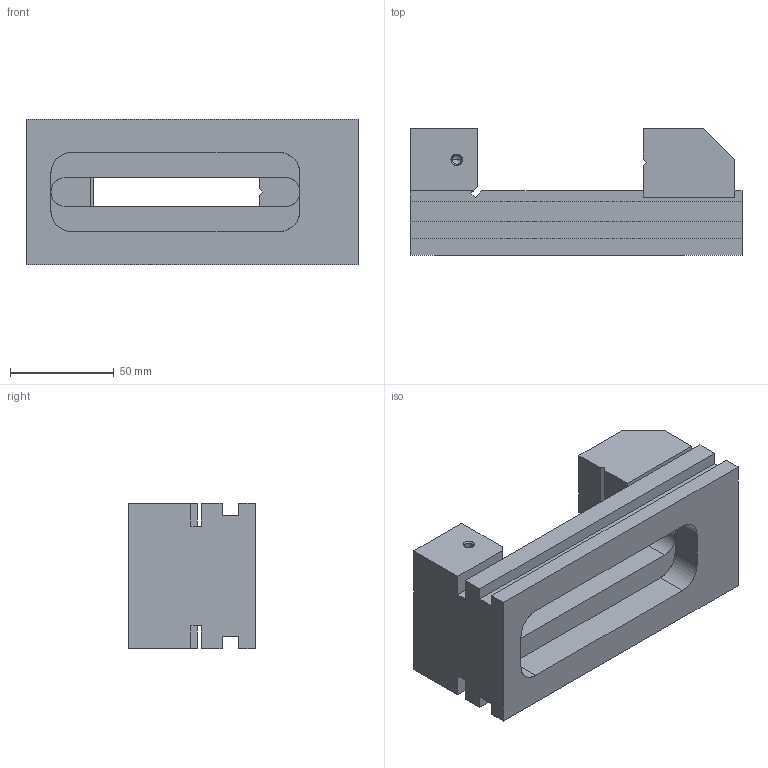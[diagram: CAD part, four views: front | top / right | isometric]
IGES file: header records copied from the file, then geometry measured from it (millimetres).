
Start section: SolidWorks IGES file using analytic representation for surfaces
Global section: file name: \\tormach-dc\Published Documents\Drawings\Files saved as other types\Solid_Models\MODELS FOR PUBLIC\32548 70mm TOOLMAKER VISE.IGS; native system: SolidWorks 2014; preprocessor: SolidWorks 2014; author: rtooley; date: 160601.094437; units: millimetre
Bounding box: 160 x 61 x 70 mm (x, y, z)
Surface area: 62688.8 mm2 (no closed solid volume)
Topology: 0 solids, 0 shells, 369 faces, 4171 edges, 4167 vertices
Faces by surface type: bspline 351, revolution 18
